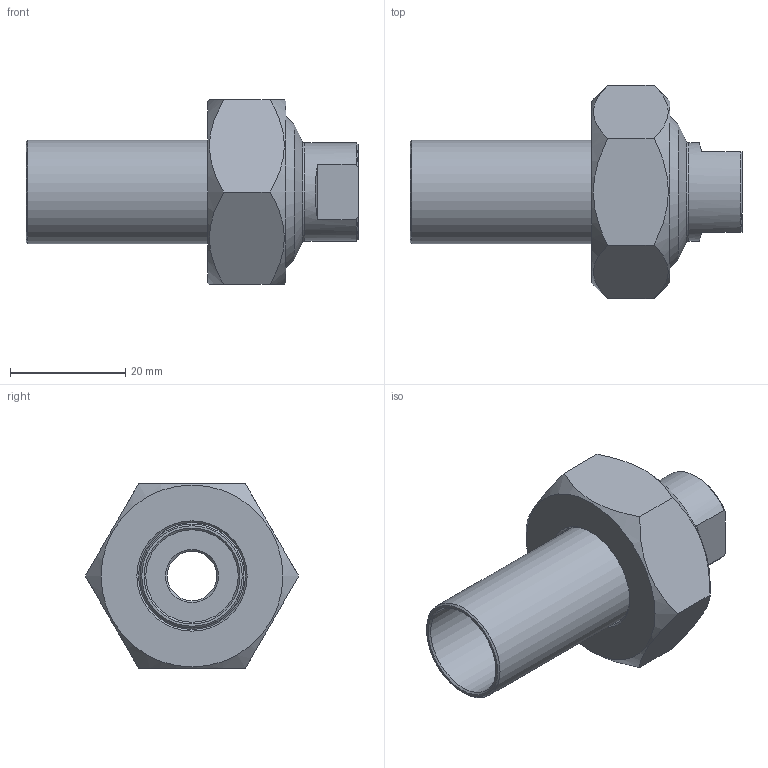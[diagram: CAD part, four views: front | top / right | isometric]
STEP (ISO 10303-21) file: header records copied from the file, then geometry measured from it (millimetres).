
FILE_DESCRIPTION(/* description */ (''),/* implementation_level */ '2;1');
FILE_NAME(/* name */ 'C:\Users\cad\Desktop\Zeichnungen neu von Ralph\Ganze Kupplungen\3D_Kupplung-R666-PE-G\3D_R666-PE-G-18-DN20-DN6_1711309276.stp',/* time_stamp */ '2021-07-15T16:12:08+02:00',/* author */ ('cad'),/* organization */ (''),/* preprocessor_version */ 'ST-DEVELOPER v18.1',/* originating_system */ 'Autodesk Inventor 2022',/* authorisation */ '');
FILE_SCHEMA (('AUTOMOTIVE_DESIGN { 1 0 10303 214 3 1 1 }'));
Length unit declared in the file: millimetre
Products named in the file (4): 3D_R666-PE-G-18-DN20-DN6_1711309276; 3D_R666-M-DN20_17113920; 3D_R666-G-DN6-DN20_17113510; 3D_R666-PE-18-DN20_17113463
Assembly tree (3 placements, depth 2):
  3D_R666-PE-G-18-DN20-DN6_1711309276
    3D_R666-M-DN20_17113920
    3D_R666-G-DN6-DN20_17113510
    3D_R666-PE-18-DN20_17113463
Bounding box: 57.5 x 36.95 x 32 mm (x, y, z)
Volume: 14205.9 mm3; surface area: 10397.9 mm2
Topology: 3 solids, 3 shells, 46 faces, 109 edges, 71 vertices
Faces by surface type: plane 18, cone 17, cylinder 8, torus 3
Full cylindrical faces by diameter (mm): 8.566 x1, 16 x1, 17 x1, 18 x1, 18.5 x1, 23.5 x1, 24.117 x1, 26.4 x1
Entity records: 1488 total; most frequent: CARTESIAN_POINT 265, DIRECTION 255, ORIENTED_EDGE 218, EDGE_CURVE 109, AXIS2_PLACEMENT_3D 109, VERTEX_POINT 71, EDGE_LOOP 54, CIRCLE 54
